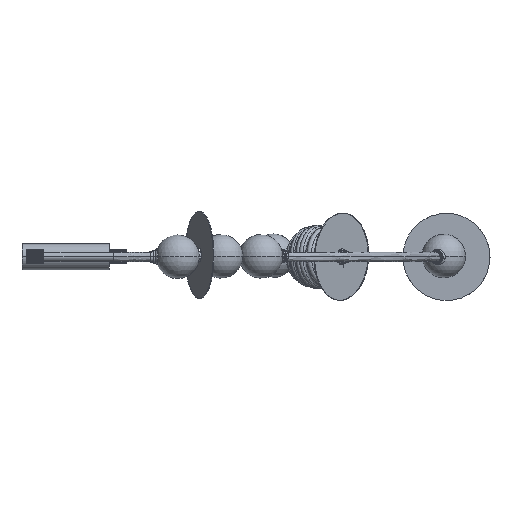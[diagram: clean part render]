
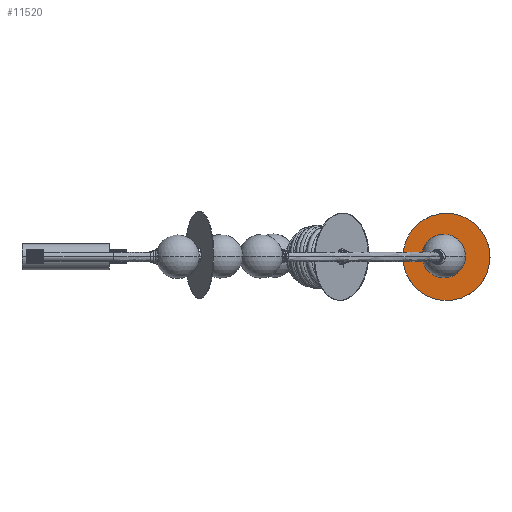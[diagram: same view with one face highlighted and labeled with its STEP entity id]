
A CAD part, left-side view. The second image highlights one B-rep face of the part: STEP entity #11520.
In plain terms, the highlighted planar face has unit normal (-0.997, 0.074, 0.032) as drawn and (0, 0, -1) by its records, which use the part's own axes.
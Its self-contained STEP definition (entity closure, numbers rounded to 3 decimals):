
#1362 = CIRCLE ( 'NONE', #10929, 100. ) ;
#1784 = DIRECTION ( 'NONE',  ( 0., 0., 1. ) ) ;
#2672 = DIRECTION ( 'NONE',  ( 1., 0., 0. ) ) ;
#2977 = CIRCLE ( 'NONE', #6994, 15. ) ;
#3230 = VERTEX_POINT ( 'NONE', #14191 ) ;
#3422 = PLANE ( 'NONE',  #6391 ) ;
#4151 = AXIS2_PLACEMENT_3D ( 'NONE', #7772, #12332, #13594 ) ;
#4236 = CARTESIAN_POINT ( 'NONE',  ( 0., 0., 0. ) ) ;
#4297 = DIRECTION ( 'NONE',  ( 1., 0., 0. ) ) ;
#4869 = DIRECTION ( 'NONE',  ( 1., 0., 0. ) ) ;
#4954 = CARTESIAN_POINT ( 'NONE',  ( 0., 0., 0. ) ) ;
#5319 = VERTEX_POINT ( 'NONE', #12367 ) ;
#6143 = ORIENTED_EDGE ( 'NONE', *, *, #10807, .F. ) ;
#6289 = CARTESIAN_POINT ( 'NONE',  ( 0., 0., 0. ) ) ;
#6391 = AXIS2_PLACEMENT_3D ( 'NONE', #4236, #1784, #12493 ) ;
#6433 = VERTEX_POINT ( 'NONE', #11384 ) ;
#6456 = ORIENTED_EDGE ( 'NONE', *, *, #14483, .T. ) ;
#6580 = CARTESIAN_POINT ( 'NONE',  ( -100., 0., 0. ) ) ;
#6593 = ORIENTED_EDGE ( 'NONE', *, *, #11892, .F. ) ;
#6994 = AXIS2_PLACEMENT_3D ( 'NONE', #12634, #15208, #4297 ) ;
#7069 = EDGE_LOOP ( 'NONE', ( #6143, #6593 ) ) ;
#7070 = EDGE_CURVE ( 'NONE', #5319, #6433, #2977, .T. ) ;
#7710 = DIRECTION ( 'NONE',  ( 0., 0., 1. ) ) ;
#7772 = CARTESIAN_POINT ( 'NONE',  ( 0., 0., 0. ) ) ;
#8129 = FACE_OUTER_BOUND ( 'NONE', #7069, .T. ) ;
#8617 = AXIS2_PLACEMENT_3D ( 'NONE', #6289, #7710, #2672 ) ;
#8862 = ORIENTED_EDGE ( 'NONE', *, *, #7070, .T. ) ;
#9681 = EDGE_LOOP ( 'NONE', ( #8862, #6456 ) ) ;
#10807 = EDGE_CURVE ( 'NONE', #15015, #3230, #14882, .T. ) ;
#10921 = CIRCLE ( 'NONE', #4151, 15. ) ;
#10929 = AXIS2_PLACEMENT_3D ( 'NONE', #4954, #11011, #4869 ) ;
#11011 = DIRECTION ( 'NONE',  ( 0., 0., 1. ) ) ;
#11384 = CARTESIAN_POINT ( 'NONE',  ( 15., 0., 0. ) ) ;
#11520 = ADVANCED_FACE ( 'NONE', ( #8129, #12564 ), #3422, .F. ) ;
#11892 = EDGE_CURVE ( 'NONE', #3230, #15015, #1362, .T. ) ;
#12332 = DIRECTION ( 'NONE',  ( 0., 0., 1. ) ) ;
#12367 = CARTESIAN_POINT ( 'NONE',  ( -15., 0., 0. ) ) ;
#12493 = DIRECTION ( 'NONE',  ( 1., 0., 0. ) ) ;
#12564 = FACE_BOUND ( 'NONE', #9681, .T. ) ;
#12634 = CARTESIAN_POINT ( 'NONE',  ( 0., 0., 0. ) ) ;
#13594 = DIRECTION ( 'NONE',  ( 1., 0., 0. ) ) ;
#14191 = CARTESIAN_POINT ( 'NONE',  ( 100., 0., 0. ) ) ;
#14483 = EDGE_CURVE ( 'NONE', #6433, #5319, #10921, .T. ) ;
#14882 = CIRCLE ( 'NONE', #8617, 100. ) ;
#15015 = VERTEX_POINT ( 'NONE', #6580 ) ;
#15208 = DIRECTION ( 'NONE',  ( 0., 0., 1. ) ) ;
